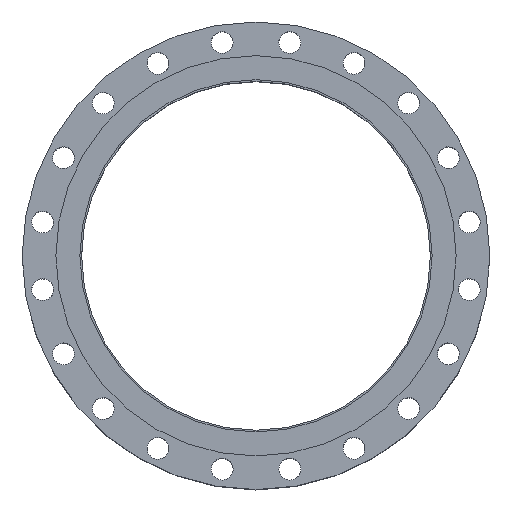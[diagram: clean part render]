
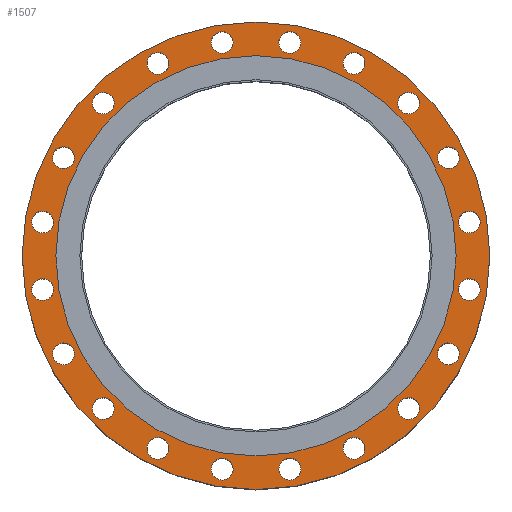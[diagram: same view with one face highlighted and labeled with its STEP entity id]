
A CAD part, top view. The second image highlights one B-rep face of the part: STEP entity #1507.
In plain terms, the highlighted planar face has unit normal (0, 0, 1).
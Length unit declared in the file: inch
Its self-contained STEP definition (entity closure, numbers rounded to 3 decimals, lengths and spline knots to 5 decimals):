
#96=FACE_BOUND('',#391,.T.);
#97=FACE_BOUND('',#392,.T.);
#98=FACE_BOUND('',#393,.T.);
#99=FACE_BOUND('',#394,.T.);
#100=FACE_BOUND('',#395,.T.);
#101=FACE_BOUND('',#396,.T.);
#102=FACE_BOUND('',#397,.T.);
#103=FACE_BOUND('',#398,.T.);
#104=FACE_BOUND('',#399,.T.);
#105=FACE_BOUND('',#400,.T.);
#106=FACE_BOUND('',#401,.T.);
#107=FACE_BOUND('',#402,.T.);
#108=FACE_BOUND('',#403,.T.);
#109=FACE_BOUND('',#404,.T.);
#110=FACE_BOUND('',#405,.T.);
#111=FACE_BOUND('',#406,.T.);
#112=FACE_BOUND('',#407,.T.);
#113=FACE_BOUND('',#408,.T.);
#114=FACE_BOUND('',#409,.T.);
#115=FACE_BOUND('',#410,.T.);
#116=FACE_BOUND('',#411,.T.);
#158=PLANE('',#1716);
#261=FACE_OUTER_BOUND('',#390,.T.);
#390=EDGE_LOOP('',(#1197));
#391=EDGE_LOOP('',(#1198));
#392=EDGE_LOOP('',(#1199));
#393=EDGE_LOOP('',(#1200));
#394=EDGE_LOOP('',(#1201));
#395=EDGE_LOOP('',(#1202));
#396=EDGE_LOOP('',(#1203));
#397=EDGE_LOOP('',(#1204));
#398=EDGE_LOOP('',(#1205));
#399=EDGE_LOOP('',(#1206));
#400=EDGE_LOOP('',(#1207));
#401=EDGE_LOOP('',(#1208));
#402=EDGE_LOOP('',(#1209));
#403=EDGE_LOOP('',(#1210));
#404=EDGE_LOOP('',(#1211));
#405=EDGE_LOOP('',(#1212));
#406=EDGE_LOOP('',(#1213));
#407=EDGE_LOOP('',(#1214));
#408=EDGE_LOOP('',(#1215));
#409=EDGE_LOOP('',(#1216));
#410=EDGE_LOOP('',(#1217));
#411=EDGE_LOOP('',(#1218));
#583=CIRCLE('',#1635,0.6875);
#585=CIRCLE('',#1638,0.6875);
#587=CIRCLE('',#1641,0.6875);
#589=CIRCLE('',#1644,0.6875);
#591=CIRCLE('',#1647,0.6875);
#593=CIRCLE('',#1650,0.6875);
#595=CIRCLE('',#1653,0.6875);
#597=CIRCLE('',#1656,0.6875);
#599=CIRCLE('',#1659,0.6875);
#601=CIRCLE('',#1662,0.6875);
#603=CIRCLE('',#1665,0.6875);
#605=CIRCLE('',#1668,0.6875);
#607=CIRCLE('',#1671,0.6875);
#609=CIRCLE('',#1674,0.6875);
#611=CIRCLE('',#1677,0.6875);
#613=CIRCLE('',#1680,0.6875);
#615=CIRCLE('',#1683,0.6875);
#617=CIRCLE('',#1686,0.6875);
#619=CIRCLE('',#1689,0.6875);
#621=CIRCLE('',#1692,0.6875);
#634=CIRCLE('',#1711,12.625);
#636=CIRCLE('',#1715,14.75);
#747=VERTEX_POINT('',#2530);
#749=VERTEX_POINT('',#2536);
#751=VERTEX_POINT('',#2542);
#753=VERTEX_POINT('',#2548);
#755=VERTEX_POINT('',#2554);
#757=VERTEX_POINT('',#2560);
#759=VERTEX_POINT('',#2566);
#761=VERTEX_POINT('',#2572);
#763=VERTEX_POINT('',#2578);
#765=VERTEX_POINT('',#2584);
#767=VERTEX_POINT('',#2590);
#769=VERTEX_POINT('',#2596);
#771=VERTEX_POINT('',#2602);
#773=VERTEX_POINT('',#2608);
#775=VERTEX_POINT('',#2614);
#777=VERTEX_POINT('',#2620);
#779=VERTEX_POINT('',#2626);
#781=VERTEX_POINT('',#2632);
#783=VERTEX_POINT('',#2638);
#785=VERTEX_POINT('',#2644);
#796=VERTEX_POINT('',#2676);
#798=VERTEX_POINT('',#2683);
#875=EDGE_CURVE('',#747,#747,#583,.T.);
#878=EDGE_CURVE('',#749,#749,#585,.T.);
#881=EDGE_CURVE('',#751,#751,#587,.T.);
#884=EDGE_CURVE('',#753,#753,#589,.T.);
#887=EDGE_CURVE('',#755,#755,#591,.T.);
#890=EDGE_CURVE('',#757,#757,#593,.T.);
#893=EDGE_CURVE('',#759,#759,#595,.T.);
#896=EDGE_CURVE('',#761,#761,#597,.T.);
#899=EDGE_CURVE('',#763,#763,#599,.T.);
#902=EDGE_CURVE('',#765,#765,#601,.T.);
#905=EDGE_CURVE('',#767,#767,#603,.T.);
#908=EDGE_CURVE('',#769,#769,#605,.T.);
#911=EDGE_CURVE('',#771,#771,#607,.T.);
#914=EDGE_CURVE('',#773,#773,#609,.T.);
#917=EDGE_CURVE('',#775,#775,#611,.T.);
#920=EDGE_CURVE('',#777,#777,#613,.T.);
#923=EDGE_CURVE('',#779,#779,#615,.T.);
#926=EDGE_CURVE('',#781,#781,#617,.T.);
#929=EDGE_CURVE('',#783,#783,#619,.T.);
#932=EDGE_CURVE('',#785,#785,#621,.T.);
#948=EDGE_CURVE('',#796,#796,#634,.T.);
#950=EDGE_CURVE('',#798,#798,#636,.T.);
#1197=ORIENTED_EDGE('',*,*,#950,.T.);
#1198=ORIENTED_EDGE('',*,*,#875,.T.);
#1199=ORIENTED_EDGE('',*,*,#878,.T.);
#1200=ORIENTED_EDGE('',*,*,#881,.T.);
#1201=ORIENTED_EDGE('',*,*,#884,.T.);
#1202=ORIENTED_EDGE('',*,*,#887,.T.);
#1203=ORIENTED_EDGE('',*,*,#890,.T.);
#1204=ORIENTED_EDGE('',*,*,#893,.T.);
#1205=ORIENTED_EDGE('',*,*,#896,.T.);
#1206=ORIENTED_EDGE('',*,*,#899,.T.);
#1207=ORIENTED_EDGE('',*,*,#902,.T.);
#1208=ORIENTED_EDGE('',*,*,#905,.T.);
#1209=ORIENTED_EDGE('',*,*,#908,.T.);
#1210=ORIENTED_EDGE('',*,*,#911,.T.);
#1211=ORIENTED_EDGE('',*,*,#914,.T.);
#1212=ORIENTED_EDGE('',*,*,#917,.T.);
#1213=ORIENTED_EDGE('',*,*,#920,.T.);
#1214=ORIENTED_EDGE('',*,*,#923,.T.);
#1215=ORIENTED_EDGE('',*,*,#926,.T.);
#1216=ORIENTED_EDGE('',*,*,#929,.T.);
#1217=ORIENTED_EDGE('',*,*,#932,.T.);
#1218=ORIENTED_EDGE('',*,*,#948,.T.);
#1507=ADVANCED_FACE('',(#261,#96,#97,#98,#99,#100,#101,#102,#103,#104,#105,
#106,#107,#108,#109,#110,#111,#112,#113,#114,#115,#116),#158,.T.);
#1635=AXIS2_PLACEMENT_3D('',#2531,#1927,#1928);
#1638=AXIS2_PLACEMENT_3D('',#2537,#1934,#1935);
#1641=AXIS2_PLACEMENT_3D('',#2543,#1941,#1942);
#1644=AXIS2_PLACEMENT_3D('',#2549,#1948,#1949);
#1647=AXIS2_PLACEMENT_3D('',#2555,#1955,#1956);
#1650=AXIS2_PLACEMENT_3D('',#2561,#1962,#1963);
#1653=AXIS2_PLACEMENT_3D('',#2567,#1969,#1970);
#1656=AXIS2_PLACEMENT_3D('',#2573,#1976,#1977);
#1659=AXIS2_PLACEMENT_3D('',#2579,#1983,#1984);
#1662=AXIS2_PLACEMENT_3D('',#2585,#1990,#1991);
#1665=AXIS2_PLACEMENT_3D('',#2591,#1997,#1998);
#1668=AXIS2_PLACEMENT_3D('',#2597,#2004,#2005);
#1671=AXIS2_PLACEMENT_3D('',#2603,#2011,#2012);
#1674=AXIS2_PLACEMENT_3D('',#2609,#2018,#2019);
#1677=AXIS2_PLACEMENT_3D('',#2615,#2025,#2026);
#1680=AXIS2_PLACEMENT_3D('',#2621,#2032,#2033);
#1683=AXIS2_PLACEMENT_3D('',#2627,#2039,#2040);
#1686=AXIS2_PLACEMENT_3D('',#2633,#2046,#2047);
#1689=AXIS2_PLACEMENT_3D('',#2639,#2053,#2054);
#1692=AXIS2_PLACEMENT_3D('',#2645,#2060,#2061);
#1711=AXIS2_PLACEMENT_3D('',#2678,#2101,#2102);
#1715=AXIS2_PLACEMENT_3D('',#2684,#2109,#2110);
#1716=AXIS2_PLACEMENT_3D('',#2686,#2112,#2113);
#1927=DIRECTION('center_axis',(0.,0.,-1.));
#1928=DIRECTION('ref_axis',(0.951,-0.309,0.));
#1934=DIRECTION('center_axis',(0.,0.,-1.));
#1935=DIRECTION('ref_axis',(0.809,-0.588,0.));
#1941=DIRECTION('center_axis',(0.,0.,-1.));
#1942=DIRECTION('ref_axis',(0.588,-0.809,0.));
#1948=DIRECTION('center_axis',(0.,0.,-1.));
#1949=DIRECTION('ref_axis',(0.309,-0.951,0.));
#1955=DIRECTION('center_axis',(0.,0.,-1.));
#1956=DIRECTION('ref_axis',(0.,-1.,0.));
#1962=DIRECTION('center_axis',(0.,0.,-1.));
#1963=DIRECTION('ref_axis',(-0.309,-0.951,0.));
#1969=DIRECTION('center_axis',(0.,0.,-1.));
#1970=DIRECTION('ref_axis',(-0.588,-0.809,0.));
#1976=DIRECTION('center_axis',(0.,0.,-1.));
#1977=DIRECTION('ref_axis',(-0.809,-0.588,0.));
#1983=DIRECTION('center_axis',(0.,0.,-1.));
#1984=DIRECTION('ref_axis',(-0.951,-0.309,0.));
#1990=DIRECTION('center_axis',(0.,0.,-1.));
#1991=DIRECTION('ref_axis',(-1.,0.,0.));
#1997=DIRECTION('center_axis',(0.,0.,-1.));
#1998=DIRECTION('ref_axis',(-0.951,0.309,0.));
#2004=DIRECTION('center_axis',(0.,0.,-1.));
#2005=DIRECTION('ref_axis',(-0.809,0.588,0.));
#2011=DIRECTION('center_axis',(0.,0.,-1.));
#2012=DIRECTION('ref_axis',(-0.588,0.809,0.));
#2018=DIRECTION('center_axis',(0.,0.,-1.));
#2019=DIRECTION('ref_axis',(-0.309,0.951,0.));
#2025=DIRECTION('center_axis',(0.,0.,-1.));
#2026=DIRECTION('ref_axis',(0.,1.,0.));
#2032=DIRECTION('center_axis',(0.,0.,-1.));
#2033=DIRECTION('ref_axis',(0.309,0.951,0.));
#2039=DIRECTION('center_axis',(0.,0.,-1.));
#2040=DIRECTION('ref_axis',(0.588,0.809,0.));
#2046=DIRECTION('center_axis',(0.,0.,-1.));
#2047=DIRECTION('ref_axis',(0.809,0.588,0.));
#2053=DIRECTION('center_axis',(0.,0.,-1.));
#2054=DIRECTION('ref_axis',(0.951,0.309,0.));
#2060=DIRECTION('center_axis',(0.,0.,-1.));
#2061=DIRECTION('ref_axis',(1.,0.,0.));
#2101=DIRECTION('center_axis',(0.,0.,-1.));
#2102=DIRECTION('ref_axis',(0.,1.,0.));
#2109=DIRECTION('center_axis',(0.,0.,1.));
#2110=DIRECTION('ref_axis',(1.,0.,0.));
#2112=DIRECTION('center_axis',(0.,0.,1.));
#2113=DIRECTION('ref_axis',(1.,0.,0.));
#2530=CARTESIAN_POINT('',(1.47757,13.6697,0.875));
#2531=CARTESIAN_POINT('Origin',(2.13142,13.45725,0.875));
#2536=CARTESIAN_POINT('',(5.62942,12.54407,0.875));
#2537=CARTESIAN_POINT('Origin',(6.18562,12.13996,0.875));
#2542=CARTESIAN_POINT('',(9.23023,10.19053,0.875));
#2543=CARTESIAN_POINT('Origin',(9.63433,9.63433,0.875));
#2548=CARTESIAN_POINT('',(11.92751,6.83947,0.875));
#2549=CARTESIAN_POINT('Origin',(12.13996,6.18562,0.875));
#2554=CARTESIAN_POINT('',(13.45725,2.81892,0.875));
#2555=CARTESIAN_POINT('Origin',(13.45725,2.13142,0.875));
#2560=CARTESIAN_POINT('',(13.6697,-1.47757,0.875));
#2561=CARTESIAN_POINT('Origin',(13.45725,-2.13142,0.875));
#2566=CARTESIAN_POINT('',(12.54407,-5.62942,0.875));
#2567=CARTESIAN_POINT('Origin',(12.13996,-6.18562,0.875));
#2572=CARTESIAN_POINT('',(10.19053,-9.23023,0.875));
#2573=CARTESIAN_POINT('Origin',(9.63433,-9.63433,0.875));
#2578=CARTESIAN_POINT('',(6.83947,-11.92751,0.875));
#2579=CARTESIAN_POINT('Origin',(6.18562,-12.13996,0.875));
#2584=CARTESIAN_POINT('',(2.81892,-13.45725,0.875));
#2585=CARTESIAN_POINT('Origin',(2.13142,-13.45725,0.875));
#2590=CARTESIAN_POINT('',(-1.47757,-13.6697,0.875));
#2591=CARTESIAN_POINT('Origin',(-2.13142,-13.45725,0.875));
#2596=CARTESIAN_POINT('',(-5.62942,-12.54407,0.875));
#2597=CARTESIAN_POINT('Origin',(-6.18562,-12.13996,0.875));
#2602=CARTESIAN_POINT('',(-9.23023,-10.19053,0.875));
#2603=CARTESIAN_POINT('Origin',(-9.63433,-9.63433,0.875));
#2608=CARTESIAN_POINT('',(-11.92751,-6.83947,0.875));
#2609=CARTESIAN_POINT('Origin',(-12.13996,-6.18562,0.875));
#2614=CARTESIAN_POINT('',(-13.45725,-2.81892,0.875));
#2615=CARTESIAN_POINT('Origin',(-13.45725,-2.13142,0.875));
#2620=CARTESIAN_POINT('',(-13.6697,1.47757,0.875));
#2621=CARTESIAN_POINT('Origin',(-13.45725,2.13142,0.875));
#2626=CARTESIAN_POINT('',(-12.54407,5.62942,0.875));
#2627=CARTESIAN_POINT('Origin',(-12.13996,6.18562,0.875));
#2632=CARTESIAN_POINT('',(-10.19053,9.23023,0.875));
#2633=CARTESIAN_POINT('Origin',(-9.63433,9.63433,0.875));
#2638=CARTESIAN_POINT('',(-6.83947,11.92751,0.875));
#2639=CARTESIAN_POINT('Origin',(-6.18562,12.13996,0.875));
#2644=CARTESIAN_POINT('',(-2.81892,13.45725,0.875));
#2645=CARTESIAN_POINT('Origin',(-2.13142,13.45725,0.875));
#2676=CARTESIAN_POINT('',(0.,-12.625,0.875));
#2678=CARTESIAN_POINT('Origin',(0.,0.,0.875));
#2683=CARTESIAN_POINT('',(0.,-14.75,0.875));
#2684=CARTESIAN_POINT('Origin',(0.,0.,0.875));
#2686=CARTESIAN_POINT('Origin',(0.,11.11,0.875));
